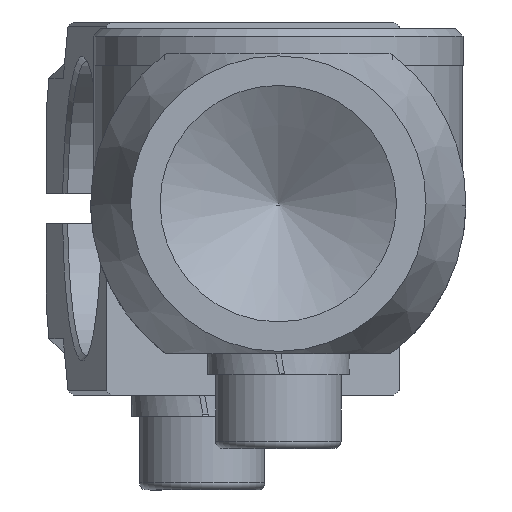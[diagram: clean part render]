
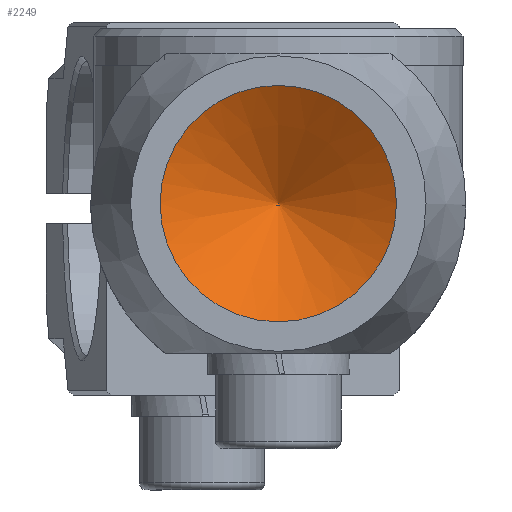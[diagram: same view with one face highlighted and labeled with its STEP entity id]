
A CAD part, front view. The second image highlights one B-rep face of the part: STEP entity #2249.
In plain terms, the highlighted conical face has half-angle 59 degrees and reference radius 4 mm.
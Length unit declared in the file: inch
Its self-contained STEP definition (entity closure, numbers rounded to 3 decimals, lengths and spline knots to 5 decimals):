
#272=FACE_OUTER_BOUND('',#411,.T.);
#411=EDGE_LOOP('',(#1732,#1733,#1734));
#559=LINE('',#3836,#699);
#699=VECTOR('',#3072,0.15748);
#866=CIRCLE('',#2601,0.31496);
#1021=VERTEX_POINT('',#3833);
#1022=VERTEX_POINT('',#3835);
#1283=EDGE_CURVE('',#1021,#1021,#866,.T.);
#1284=EDGE_CURVE('',#1021,#1022,#559,.T.);
#1732=ORIENTED_EDGE('',*,*,#1283,.T.);
#1733=ORIENTED_EDGE('',*,*,#1284,.T.);
#1734=ORIENTED_EDGE('',*,*,#1284,.F.);
#2184=CONICAL_SURFACE('',#2600,0.15748,1.03);
#2249=ADVANCED_FACE('',(#272),#2184,.F.);
#2600=AXIS2_PLACEMENT_3D('',#3832,#3068,#3069);
#2601=AXIS2_PLACEMENT_3D('',#3834,#3070,#3071);
#3068=DIRECTION('center_axis',(0.,-1.,0.));
#3069=DIRECTION('ref_axis',(1.,0.,0.));
#3070=DIRECTION('center_axis',(0.,-1.,0.));
#3071=DIRECTION('ref_axis',(1.,0.,0.));
#3072=DIRECTION('',(0.857,0.515,0.));
#3832=CARTESIAN_POINT('Origin',(0.,1.43321,0.));
#3833=CARTESIAN_POINT('',(-0.31496,1.33858,0.));
#3834=CARTESIAN_POINT('Origin',(0.,1.33858,0.));
#3835=CARTESIAN_POINT('',(0.,1.52783,0.));
#3836=CARTESIAN_POINT('',(-0.15748,1.43321,0.));
